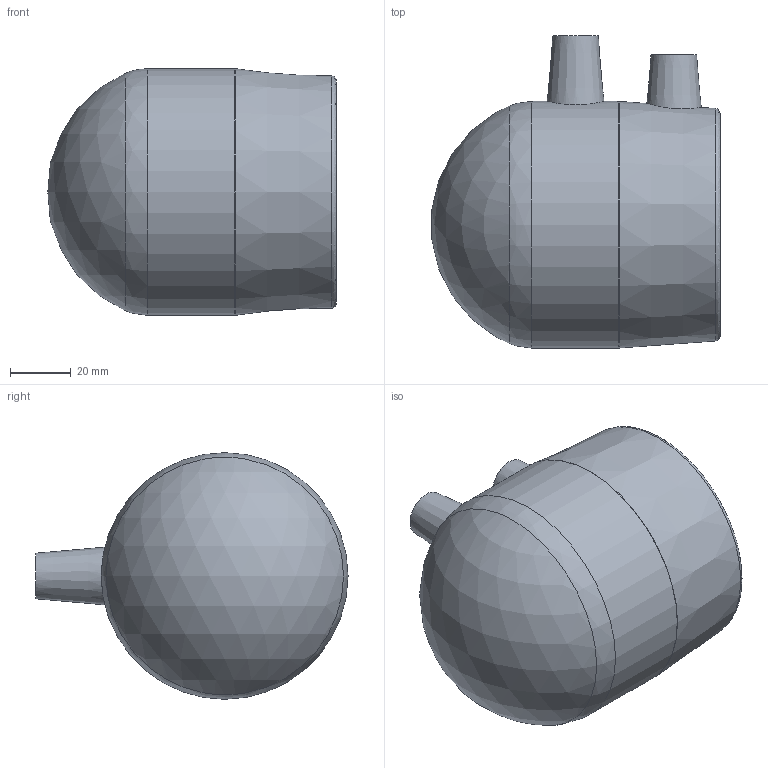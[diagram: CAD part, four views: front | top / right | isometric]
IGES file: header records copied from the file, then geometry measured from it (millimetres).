
Global section: file name: 494204063.ipt; native system: Autodesk Inventor 2015; preprocessor: unknown; author: Кирилл,,11,0; organization: 20170630.203301; date: 20171106.094140; units: millimetre
Bounding box: 94.71 x 102.5 x 81 mm (x, y, z)
Volume: 182980.4 mm3; surface area: 46254.9 mm2
Topology: 1 solids, 1 shells, 45 faces, 111 edges, 74 vertices
Faces by surface type: plane 24, revolution 14, cylinder 3, cone 3, sphere 1
Full cylindrical faces by diameter (mm): 4 x2, 81 x1
